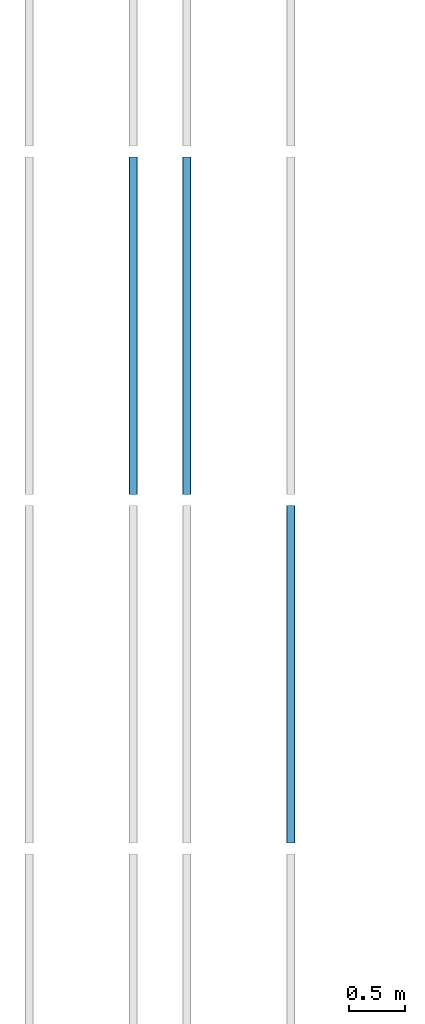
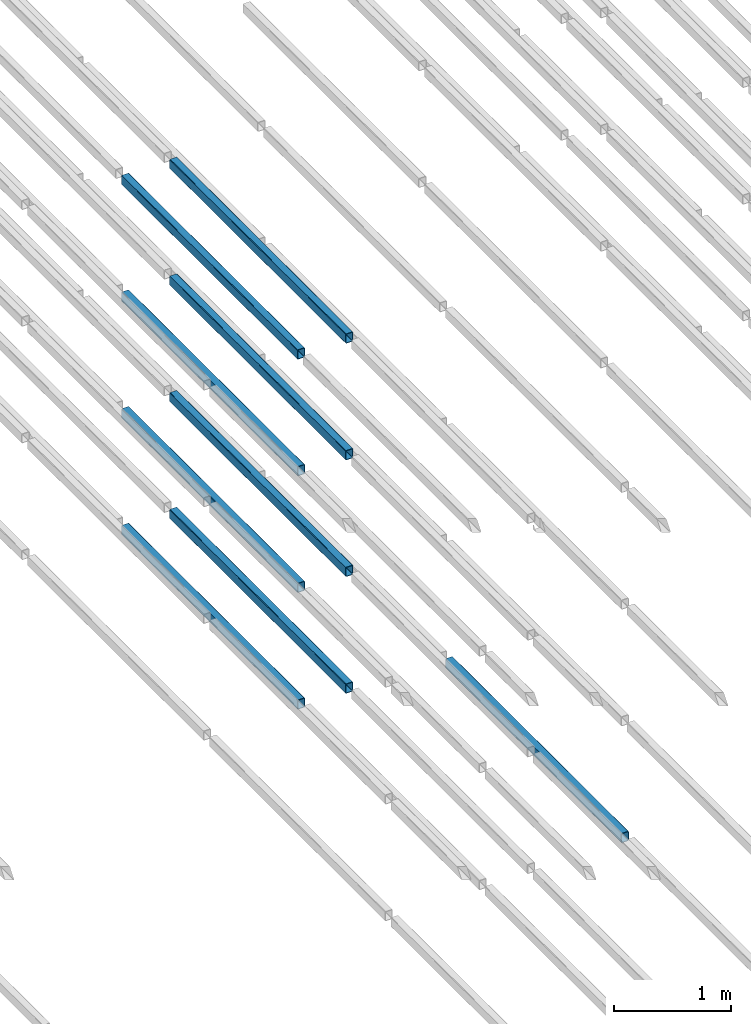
# One storey, part 63 of 290: 9 beams.
"""IFC2X3 building model written with IfcOpenShell, lengths in metres."""

from ifc_helpers import new_model, entity, si_unit, converted_unit, derived_unit, direction, frame, frame_2d, origin, place, context, subcontext, project, spatial, polyline, circle_curve, parameter, trimmed, segment, composite_curve, outline, extrude, material, type_object, element, save


model = new_model("IFC2X3")

# Units and contexts
model_context = context("Model", 3, precision=1e-05, world=origin(), true_north=direction((6.12303176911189e-17, 1.0)))
body_context = subcontext(model_context, "Body", "Model", "MODEL_VIEW")
ifc_project = project(units=[si_unit("LENGTHUNIT", "METRE"), si_unit("AREAUNIT", "SQUARE_METRE"), si_unit("VOLUMEUNIT", "CUBIC_METRE"), converted_unit("PLANEANGLEUNIT", "DEGREE", entity("IfcRatioMeasure", 0.0174532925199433), si_unit("PLANEANGLEUNIT", "RADIAN"), dimensions=[0, 0, 0, 0, 0, 0, 0]), si_unit("MASSUNIT", "GRAM", prefix="KILO"), derived_unit("MASSDENSITYUNIT", [(si_unit("MASSUNIT", "GRAM", prefix="KILO"), 1), (si_unit("LENGTHUNIT", "METRE"), -3)]), derived_unit("MOMENTOFINERTIAUNIT", [(si_unit("LENGTHUNIT", "METRE"), 4)]), si_unit("TIMEUNIT", "SECOND"), si_unit("FREQUENCYUNIT", "HERTZ"), si_unit("THERMODYNAMICTEMPERATUREUNIT", "DEGREE_CELSIUS"), derived_unit("THERMALTRANSMITTANCEUNIT", [(si_unit("MASSUNIT", "GRAM", prefix="KILO"), 1), (si_unit("THERMODYNAMICTEMPERATUREUNIT", "KELVIN"), -1), (si_unit("TIMEUNIT", "SECOND"), -3)]), derived_unit("VOLUMETRICFLOWRATEUNIT", [(si_unit("LENGTHUNIT", "METRE"), 3), (si_unit("TIMEUNIT", "SECOND"), -1)]), si_unit("ELECTRICCURRENTUNIT", "AMPERE"), si_unit("ELECTRICVOLTAGEUNIT", "VOLT"), si_unit("POWERUNIT", "WATT"), si_unit("FORCEUNIT", "NEWTON", prefix="KILO"), si_unit("ILLUMINANCEUNIT", "LUX"), si_unit("LUMINOUSFLUXUNIT", "LUMEN"), si_unit("LUMINOUSINTENSITYUNIT", "CANDELA"), derived_unit("USERDEFINED", [(si_unit("MASSUNIT", "GRAM", prefix="KILO"), -1), (si_unit("LENGTHUNIT", "METRE"), -2), (si_unit("TIMEUNIT", "SECOND"), 3), (si_unit("LUMINOUSFLUXUNIT", "LUMEN"), 1)]), derived_unit("LINEARVELOCITYUNIT", [(si_unit("LENGTHUNIT", "METRE"), 1), (si_unit("TIMEUNIT", "SECOND"), -1)]), si_unit("PRESSUREUNIT", "PASCAL"), derived_unit("USERDEFINED", [(si_unit("LENGTHUNIT", "METRE"), -2), (si_unit("MASSUNIT", "GRAM", prefix="KILO"), 1), (si_unit("TIMEUNIT", "SECOND"), -2)]), derived_unit("LINEARFORCEUNIT", [(si_unit("MASSUNIT", "GRAM", prefix="KILO"), 1), (si_unit("LENGTHUNIT", "METRE"), 1), (si_unit("TIMEUNIT", "SECOND"), -2), (si_unit("LENGTHUNIT", "METRE"), -1)]), derived_unit("PLANARFORCEUNIT", [(si_unit("MASSUNIT", "GRAM", prefix="KILO"), 1), (si_unit("LENGTHUNIT", "METRE"), 1), (si_unit("TIMEUNIT", "SECOND"), -2), (si_unit("LENGTHUNIT", "METRE"), -2)])], contexts=[model_context])

# Site, building, storey
site_placement = place(None, origin())
site = spatial("IfcSite", under=ifc_project, at=site_placement, Name="Default", CompositionType="ELEMENT")
building_placement = place(site_placement, origin())
building = spatial("IfcBuilding", under=site, at=building_placement, CompositionType="ELEMENT")
storey_placement = place(building_placement, frame((0.0, 0.0, 4.0)))
storey = spatial("IfcBuildingStorey", under=building, at=storey_placement, Name="01_OG", CompositionType="ELEMENT", Elevation=4.0)

# Beams
ifc_material = material(Name="Metall - Baustahl S235 blau")
beam_type = type_object("IfcBeamType", Name="RHS Träger (EN 10219-2):RHS 100 x 75 x 5", PredefinedType="NOTDEFINED")
beam_1_placement = place(storey_placement, frame((-194.165111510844, 39.548088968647, -1.2), z_axis=(0.0, 0.0, 1.0), x_axis=(0.0, 1.0, 0.0)))
element("IfcBeam", 1, at=beam_1_placement, inside=storey, type_object=beam_type, material=ifc_material, Name="RHS Träger (EN 10219-2):RHS 100 x 75 x 5", ObjectType="RHS Träger (EN 10219-2):RHS 100 x 75 x 5", context=body_context, shape_type="SweptSolid", body=[
    extrude(outline(composite_curve([segment(polyline([(-0.0400000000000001, -0.0374999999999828), (0.0400000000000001, -0.0374999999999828)]), True, "CONTINUOUS"), segment(trimmed(circle_curve(frame_2d((0.0400000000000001, -0.0274999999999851), x_axis=(0.0, 1.0)), 0.01), [parameter(180.0)], [parameter(270.0)], True, "PARAMETER"), True, "CONTINUOUS"), segment(polyline([(0.05, -0.0274999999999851), (0.05, 0.0274999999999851)]), True, "CONTINUOUS"), segment(trimmed(circle_curve(frame_2d((0.0400000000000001, 0.0274999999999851), x_axis=(0.0, 1.0)), 0.01), [parameter(270.0)], [parameter(4.07110999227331e-13)], True, "PARAMETER"), True, "CONTINUOUS"), segment(polyline([(0.0400000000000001, 0.0375000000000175), (-0.0400000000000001, 0.0375000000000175)]), True, "CONTINUOUS"), segment(trimmed(circle_curve(frame_2d((-0.0400000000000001, 0.0274999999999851), x_axis=(0.0, 1.0)), 0.01), [parameter(360.0)], [parameter(90.0000000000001)], True, "PARAMETER"), True, "CONTINUOUS"), segment(polyline([(-0.05, 0.0274999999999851), (-0.05, -0.0274999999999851)]), True, "CONTINUOUS"), segment(trimmed(circle_curve(frame_2d((-0.0400000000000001, -0.0274999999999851), x_axis=(0.0, 1.0)), 0.01), [parameter(90.0000000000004)], [parameter(180.0)], True, "PARAMETER"), True, "CONTINUOUS")], self_intersect=False), holes=[composite_curve([segment(trimmed(circle_curve(frame_2d((-0.0400000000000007, 0.0274999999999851), x_axis=(0.0, 1.0)), 0.005), [parameter(360.0)], [parameter(89.9999999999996)], True, "PARAMETER"), False, "CONTINUOUS"), segment(polyline([(-0.0400000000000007, 0.0325000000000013), (0.039999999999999, 0.0325000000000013)]), True, "CONTINUOUS"), segment(trimmed(circle_curve(frame_2d((0.039999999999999, 0.0274999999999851), x_axis=(0.0, 1.0)), 0.005), [parameter(270.0)], [parameter(0.0)], True, "PARAMETER"), False, "CONTINUOUS"), segment(polyline([(0.044999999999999, 0.0274999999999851), (0.044999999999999, -0.0274999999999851)]), True, "CONTINUOUS"), segment(trimmed(circle_curve(frame_2d((0.039999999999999, -0.0274999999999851), x_axis=(0.0, 1.0)), 0.005), [parameter(180.0)], [parameter(269.999999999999)], True, "PARAMETER"), False, "CONTINUOUS"), segment(polyline([(0.039999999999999, -0.0325000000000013), (-0.0400000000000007, -0.0325000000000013)]), True, "CONTINUOUS"), segment(trimmed(circle_curve(frame_2d((-0.0400000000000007, -0.0274999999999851), x_axis=(0.0, 1.0)), 0.005), [parameter(90.0000000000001)], [parameter(180.0)], True, "PARAMETER"), False, "CONTINUOUS"), segment(polyline([(-0.0450000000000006, -0.0274999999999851), (-0.0450000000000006, 0.0274999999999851)]), True, "CONTINUOUS")], self_intersect=False)]), frame((0.000100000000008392, -0.0375000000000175, -0.0500000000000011), z_axis=(1.0, 0.0, 0.0), x_axis=(0.0, 0.0, -1.0)), (0.0, 0.0, 1.0), 2.99979999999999),
])
beam_2_placement = place(storey_placement, frame((-195.565111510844, 42.648088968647, -1.2), z_axis=(0.0, 0.0, 1.0), x_axis=(0.0, 1.0, 0.0)))
element("IfcBeam", 2, at=beam_2_placement, inside=storey, type_object=beam_type, material=ifc_material, Name="RHS Träger (EN 10219-2):RHS 100 x 75 x 5", ObjectType="RHS Träger (EN 10219-2):RHS 100 x 75 x 5", context=body_context, shape_type="SweptSolid", body=[
    extrude(outline(composite_curve([segment(polyline([(-0.0400000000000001, -0.0374999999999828), (0.0400000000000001, -0.0374999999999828)]), True, "CONTINUOUS"), segment(trimmed(circle_curve(frame_2d((0.0400000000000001, -0.0274999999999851), x_axis=(0.0, 1.0)), 0.01), [parameter(180.0)], [parameter(270.0)], True, "PARAMETER"), True, "CONTINUOUS"), segment(polyline([(0.05, -0.0274999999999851), (0.05, 0.0274999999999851)]), True, "CONTINUOUS"), segment(trimmed(circle_curve(frame_2d((0.0400000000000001, 0.0274999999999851), x_axis=(0.0, 1.0)), 0.01), [parameter(270.0)], [parameter(4.07110999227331e-13)], True, "PARAMETER"), True, "CONTINUOUS"), segment(polyline([(0.0400000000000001, 0.0375000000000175), (-0.0400000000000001, 0.0375000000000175)]), True, "CONTINUOUS"), segment(trimmed(circle_curve(frame_2d((-0.0400000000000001, 0.0274999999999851), x_axis=(0.0, 1.0)), 0.01), [parameter(360.0)], [parameter(90.0000000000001)], True, "PARAMETER"), True, "CONTINUOUS"), segment(polyline([(-0.05, 0.0274999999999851), (-0.05, -0.0274999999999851)]), True, "CONTINUOUS"), segment(trimmed(circle_curve(frame_2d((-0.0400000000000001, -0.0274999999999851), x_axis=(0.0, 1.0)), 0.01), [parameter(90.0000000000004)], [parameter(180.0)], True, "PARAMETER"), True, "CONTINUOUS")], self_intersect=False), holes=[composite_curve([segment(trimmed(circle_curve(frame_2d((-0.0400000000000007, 0.0274999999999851), x_axis=(0.0, 1.0)), 0.005), [parameter(360.0)], [parameter(89.9999999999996)], True, "PARAMETER"), False, "CONTINUOUS"), segment(polyline([(-0.0400000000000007, 0.0325000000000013), (0.039999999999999, 0.0325000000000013)]), True, "CONTINUOUS"), segment(trimmed(circle_curve(frame_2d((0.039999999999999, 0.0274999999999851), x_axis=(0.0, 1.0)), 0.005), [parameter(270.0)], [parameter(0.0)], True, "PARAMETER"), False, "CONTINUOUS"), segment(polyline([(0.044999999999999, 0.0274999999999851), (0.044999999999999, -0.0274999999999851)]), True, "CONTINUOUS"), segment(trimmed(circle_curve(frame_2d((0.039999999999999, -0.0274999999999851), x_axis=(0.0, 1.0)), 0.005), [parameter(180.0)], [parameter(269.999999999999)], True, "PARAMETER"), False, "CONTINUOUS"), segment(polyline([(0.039999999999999, -0.0325000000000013), (-0.0400000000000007, -0.0325000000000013)]), True, "CONTINUOUS"), segment(trimmed(circle_curve(frame_2d((-0.0400000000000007, -0.0274999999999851), x_axis=(0.0, 1.0)), 0.005), [parameter(90.0000000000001)], [parameter(180.0)], True, "PARAMETER"), False, "CONTINUOUS"), segment(polyline([(-0.0450000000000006, -0.0274999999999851), (-0.0450000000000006, 0.0274999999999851)]), True, "CONTINUOUS")], self_intersect=False)]), frame((9.99999999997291e-05, -0.0375000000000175, -0.0500000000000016), z_axis=(1.0, 0.0, 0.0), x_axis=(0.0, 0.0, -1.0)), (0.0, 0.0, 1.0), 2.99979999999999),
])
beam_3_placement = place(storey_placement, frame((-195.565111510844, 42.648088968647, 0.0150000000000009), z_axis=(0.0, 0.0, 1.0), x_axis=(0.0, 1.0, 0.0)))
element("IfcBeam", 3, at=beam_3_placement, inside=storey, type_object=beam_type, material=ifc_material, Name="RHS Träger (EN 10219-2):RHS 100 x 75 x 5", ObjectType="RHS Träger (EN 10219-2):RHS 100 x 75 x 5", context=body_context, shape_type="SweptSolid", body=[
    extrude(outline(composite_curve([segment(polyline([(-0.0400000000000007, -0.0374999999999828), (0.0399999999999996, -0.0374999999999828)]), True, "CONTINUOUS"), segment(trimmed(circle_curve(frame_2d((0.0399999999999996, -0.0274999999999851), x_axis=(0.0, 1.0)), 0.01), [parameter(180.0)], [parameter(270.0)], True, "PARAMETER"), True, "CONTINUOUS"), segment(polyline([(0.0499999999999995, -0.0274999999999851), (0.0499999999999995, 0.0274999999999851)]), True, "CONTINUOUS"), segment(trimmed(circle_curve(frame_2d((0.0399999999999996, 0.0274999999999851), x_axis=(0.0, 1.0)), 0.01), [parameter(270.0)], [parameter(4.07110999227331e-13)], True, "PARAMETER"), True, "CONTINUOUS"), segment(polyline([(0.0399999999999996, 0.0375000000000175), (-0.0400000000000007, 0.0375000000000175)]), True, "CONTINUOUS"), segment(trimmed(circle_curve(frame_2d((-0.0400000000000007, 0.0274999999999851), x_axis=(0.0, 1.0)), 0.01), [parameter(360.0)], [parameter(90.0000000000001)], True, "PARAMETER"), True, "CONTINUOUS"), segment(polyline([(-0.0500000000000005, 0.0274999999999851), (-0.0500000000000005, -0.0274999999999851)]), True, "CONTINUOUS"), segment(trimmed(circle_curve(frame_2d((-0.0400000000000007, -0.0274999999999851), x_axis=(0.0, 1.0)), 0.01), [parameter(90.0000000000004)], [parameter(180.0)], True, "PARAMETER"), True, "CONTINUOUS")], self_intersect=False), holes=[composite_curve([segment(trimmed(circle_curve(frame_2d((-0.0400000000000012, 0.0274999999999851), x_axis=(0.0, 1.0)), 0.005), [parameter(360.0)], [parameter(89.9999999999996)], True, "PARAMETER"), False, "CONTINUOUS"), segment(polyline([(-0.0400000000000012, 0.0325000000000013), (0.0399999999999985, 0.0325000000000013)]), True, "CONTINUOUS"), segment(trimmed(circle_curve(frame_2d((0.0399999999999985, 0.0274999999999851), x_axis=(0.0, 1.0)), 0.005), [parameter(270.0)], [parameter(0.0)], True, "PARAMETER"), False, "CONTINUOUS"), segment(polyline([(0.0449999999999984, 0.0274999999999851), (0.0449999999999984, -0.0274999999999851)]), True, "CONTINUOUS"), segment(trimmed(circle_curve(frame_2d((0.0399999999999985, -0.0274999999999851), x_axis=(0.0, 1.0)), 0.005), [parameter(180.0)], [parameter(269.999999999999)], True, "PARAMETER"), False, "CONTINUOUS"), segment(polyline([(0.0399999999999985, -0.0325000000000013), (-0.0400000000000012, -0.0325000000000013)]), True, "CONTINUOUS"), segment(trimmed(circle_curve(frame_2d((-0.0400000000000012, -0.0274999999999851), x_axis=(0.0, 1.0)), 0.005), [parameter(90.0000000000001)], [parameter(180.0)], True, "PARAMETER"), False, "CONTINUOUS"), segment(polyline([(-0.0450000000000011, -0.0274999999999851), (-0.0450000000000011, 0.0274999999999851)]), True, "CONTINUOUS")], self_intersect=False)]), frame((9.99999999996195e-05, -0.0375000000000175, -0.0500000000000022), z_axis=(1.0, 0.0, 0.0), x_axis=(0.0, 0.0, -1.0)), (0.0, 0.0, 1.0), 2.99979999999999),
])
beam_4_placement = place(storey_placement, frame((-195.565111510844, 42.648088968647, 1.23), z_axis=(0.0, 0.0, 1.0), x_axis=(0.0, 1.0, 0.0)))
element("IfcBeam", 4, at=beam_4_placement, inside=storey, type_object=beam_type, material=ifc_material, Name="RHS Träger (EN 10219-2):RHS 100 x 75 x 5", ObjectType="RHS Träger (EN 10219-2):RHS 100 x 75 x 5", context=body_context, shape_type="SweptSolid", body=[
    extrude(outline(composite_curve([segment(polyline([(-0.0399999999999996, -0.0374999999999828), (0.0399999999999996, -0.0374999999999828)]), True, "CONTINUOUS"), segment(trimmed(circle_curve(frame_2d((0.0399999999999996, -0.0274999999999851), x_axis=(0.0, 1.0)), 0.01), [parameter(180.0)], [parameter(270.0)], True, "PARAMETER"), True, "CONTINUOUS"), segment(polyline([(0.0500000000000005, -0.0274999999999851), (0.0500000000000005, 0.0274999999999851)]), True, "CONTINUOUS"), segment(trimmed(circle_curve(frame_2d((0.0399999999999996, 0.0274999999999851), x_axis=(0.0, 1.0)), 0.01), [parameter(270.0)], [parameter(4.07110999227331e-13)], True, "PARAMETER"), True, "CONTINUOUS"), segment(polyline([(0.0399999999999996, 0.0375000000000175), (-0.0399999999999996, 0.0375000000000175)]), True, "CONTINUOUS"), segment(trimmed(circle_curve(frame_2d((-0.0399999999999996, 0.0274999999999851), x_axis=(0.0, 1.0)), 0.01), [parameter(360.0)], [parameter(90.0000000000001)], True, "PARAMETER"), True, "CONTINUOUS"), segment(polyline([(-0.0499999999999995, 0.0274999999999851), (-0.0499999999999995, -0.0274999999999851)]), True, "CONTINUOUS"), segment(trimmed(circle_curve(frame_2d((-0.0399999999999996, -0.0274999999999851), x_axis=(0.0, 1.0)), 0.01), [parameter(90.0000000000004)], [parameter(180.0)], True, "PARAMETER"), True, "CONTINUOUS")], self_intersect=False), holes=[composite_curve([segment(trimmed(circle_curve(frame_2d((-0.0400000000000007, 0.0274999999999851), x_axis=(0.0, 1.0)), 0.005), [parameter(360.0)], [parameter(89.9999999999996)], True, "PARAMETER"), False, "CONTINUOUS"), segment(polyline([(-0.0400000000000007, 0.0325000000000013), (0.0399999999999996, 0.0325000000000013)]), True, "CONTINUOUS"), segment(trimmed(circle_curve(frame_2d((0.0399999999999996, 0.0274999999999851), x_axis=(0.0, 1.0)), 0.005), [parameter(270.0)], [parameter(0.0)], True, "PARAMETER"), False, "CONTINUOUS"), segment(polyline([(0.0449999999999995, 0.0274999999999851), (0.0449999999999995, -0.0274999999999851)]), True, "CONTINUOUS"), segment(trimmed(circle_curve(frame_2d((0.0399999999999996, -0.0274999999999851), x_axis=(0.0, 1.0)), 0.005), [parameter(180.0)], [parameter(269.999999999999)], True, "PARAMETER"), False, "CONTINUOUS"), segment(polyline([(0.0399999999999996, -0.0325000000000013), (-0.0400000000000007, -0.0325000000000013)]), True, "CONTINUOUS"), segment(trimmed(circle_curve(frame_2d((-0.0400000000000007, -0.0274999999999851), x_axis=(0.0, 1.0)), 0.005), [parameter(90.0000000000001)], [parameter(180.0)], True, "PARAMETER"), False, "CONTINUOUS"), segment(polyline([(-0.0450000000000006, -0.0274999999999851), (-0.0450000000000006, 0.0274999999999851)]), True, "CONTINUOUS")], self_intersect=False)]), frame((9.99999999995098e-05, -0.0375000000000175, -0.0500000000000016), z_axis=(1.0, 0.0, 0.0), x_axis=(0.0, 0.0, -1.0)), (0.0, 0.0, 1.0), 2.99979999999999),
])
beam_5_placement = place(storey_placement, frame((-195.565111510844, 42.648088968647, 2.445), z_axis=(0.0, 0.0, 1.0), x_axis=(0.0, 1.0, 0.0)))
element("IfcBeam", 5, at=beam_5_placement, inside=storey, type_object=beam_type, material=ifc_material, Name="RHS Träger (EN 10219-2):RHS 100 x 75 x 5", ObjectType="RHS Träger (EN 10219-2):RHS 100 x 75 x 5", context=body_context, shape_type="SweptSolid", body=[
    extrude(outline(composite_curve([segment(polyline([(-0.0399999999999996, -0.0374999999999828), (0.0399999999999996, -0.0374999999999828)]), True, "CONTINUOUS"), segment(trimmed(circle_curve(frame_2d((0.0399999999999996, -0.0274999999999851), x_axis=(0.0, 1.0)), 0.01), [parameter(180.0)], [parameter(270.0)], True, "PARAMETER"), True, "CONTINUOUS"), segment(polyline([(0.0500000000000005, -0.0274999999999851), (0.0500000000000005, 0.0274999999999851)]), True, "CONTINUOUS"), segment(trimmed(circle_curve(frame_2d((0.0399999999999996, 0.0274999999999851), x_axis=(0.0, 1.0)), 0.01), [parameter(270.0)], [parameter(4.07110999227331e-13)], True, "PARAMETER"), True, "CONTINUOUS"), segment(polyline([(0.0399999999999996, 0.0375000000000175), (-0.0399999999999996, 0.0375000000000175)]), True, "CONTINUOUS"), segment(trimmed(circle_curve(frame_2d((-0.0399999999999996, 0.0274999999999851), x_axis=(0.0, 1.0)), 0.01), [parameter(360.0)], [parameter(90.0000000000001)], True, "PARAMETER"), True, "CONTINUOUS"), segment(polyline([(-0.0499999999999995, 0.0274999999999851), (-0.0499999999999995, -0.0274999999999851)]), True, "CONTINUOUS"), segment(trimmed(circle_curve(frame_2d((-0.0399999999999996, -0.0274999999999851), x_axis=(0.0, 1.0)), 0.01), [parameter(90.0000000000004)], [parameter(180.0)], True, "PARAMETER"), True, "CONTINUOUS")], self_intersect=False), holes=[composite_curve([segment(trimmed(circle_curve(frame_2d((-0.0400000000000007, 0.0274999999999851), x_axis=(0.0, 1.0)), 0.005), [parameter(360.0)], [parameter(89.9999999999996)], True, "PARAMETER"), False, "CONTINUOUS"), segment(polyline([(-0.0400000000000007, 0.0325000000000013), (0.0399999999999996, 0.0325000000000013)]), True, "CONTINUOUS"), segment(trimmed(circle_curve(frame_2d((0.0399999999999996, 0.0274999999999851), x_axis=(0.0, 1.0)), 0.005), [parameter(270.0)], [parameter(0.0)], True, "PARAMETER"), False, "CONTINUOUS"), segment(polyline([(0.0449999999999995, 0.0274999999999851), (0.0449999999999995, -0.0274999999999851)]), True, "CONTINUOUS"), segment(trimmed(circle_curve(frame_2d((0.0399999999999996, -0.0274999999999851), x_axis=(0.0, 1.0)), 0.005), [parameter(180.0)], [parameter(269.999999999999)], True, "PARAMETER"), False, "CONTINUOUS"), segment(polyline([(0.0399999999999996, -0.0325000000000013), (-0.0400000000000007, -0.0325000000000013)]), True, "CONTINUOUS"), segment(trimmed(circle_curve(frame_2d((-0.0400000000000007, -0.0274999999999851), x_axis=(0.0, 1.0)), 0.005), [parameter(90.0000000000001)], [parameter(180.0)], True, "PARAMETER"), False, "CONTINUOUS"), segment(polyline([(-0.0450000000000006, -0.0274999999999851), (-0.0450000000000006, 0.0274999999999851)]), True, "CONTINUOUS")], self_intersect=False)]), frame((9.99999999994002e-05, -0.0375000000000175, -0.0500000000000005), z_axis=(1.0, 0.0, 0.0), x_axis=(0.0, 0.0, -1.0)), (0.0, 0.0, 1.0), 2.99979999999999),
])
beam_6_placement = place(storey_placement, frame((-195.015111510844, 42.648088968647, -1.2), z_axis=(0.0, 0.0, 1.0), x_axis=(0.0, 1.0, 0.0)))
element("IfcBeam", 6, at=beam_6_placement, inside=storey, type_object=beam_type, material=ifc_material, Name="RHS Träger (EN 10219-2):RHS 100 x 75 x 5", ObjectType="RHS Träger (EN 10219-2):RHS 100 x 75 x 5", context=body_context, shape_type="SweptSolid", body=[
    extrude(outline(composite_curve([segment(trimmed(circle_curve(frame_2d((-0.0275000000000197, -0.0400000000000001), x_axis=(1.0, 0.0)), 0.01), [parameter(180.0)], [parameter(270.0)], True, "PARAMETER"), True, "CONTINUOUS"), segment(polyline([(-0.0275000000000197, -0.05), (0.0274999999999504, -0.05)]), True, "CONTINUOUS"), segment(trimmed(circle_curve(frame_2d((0.0274999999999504, -0.0400000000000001), x_axis=(1.0, 0.0)), 0.01), [parameter(270.0)], [parameter(5.08888749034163e-14)], True, "PARAMETER"), True, "CONTINUOUS"), segment(polyline([(0.0374999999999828, -0.0400000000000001), (0.0374999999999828, 0.0400000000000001)]), True, "CONTINUOUS"), segment(trimmed(circle_curve(frame_2d((0.0274999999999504, 0.0400000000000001), x_axis=(1.0, 0.0)), 0.01), [parameter(360.0)], [parameter(89.9999999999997)], True, "PARAMETER"), True, "CONTINUOUS"), segment(polyline([(0.0274999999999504, 0.05), (-0.0275000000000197, 0.05)]), True, "CONTINUOUS"), segment(trimmed(circle_curve(frame_2d((-0.0275000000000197, 0.0400000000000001), x_axis=(1.0, 0.0)), 0.01), [parameter(90.0000000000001)], [parameter(180.0)], True, "PARAMETER"), True, "CONTINUOUS"), segment(polyline([(-0.0375000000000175, 0.0400000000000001), (-0.0375000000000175, -0.0400000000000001)]), True, "CONTINUOUS")], self_intersect=False), holes=[composite_curve([segment(polyline([(0.0274999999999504, -0.0450000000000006), (-0.0275000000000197, -0.0450000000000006)]), True, "CONTINUOUS"), segment(trimmed(circle_curve(frame_2d((-0.0275000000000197, -0.0400000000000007), x_axis=(1.0, 0.0)), 0.005), [parameter(180.0)], [parameter(270.0)], True, "PARAMETER"), False, "CONTINUOUS"), segment(polyline([(-0.0325000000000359, -0.0400000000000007), (-0.0325000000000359, 0.039999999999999)]), True, "CONTINUOUS"), segment(trimmed(circle_curve(frame_2d((-0.0275000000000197, 0.039999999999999), x_axis=(1.0, 0.0)), 0.005), [parameter(90.0000000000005)], [parameter(180.0)], True, "PARAMETER"), False, "CONTINUOUS"), segment(polyline([(-0.0275000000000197, 0.044999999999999), (0.0274999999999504, 0.044999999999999)]), True, "CONTINUOUS"), segment(trimmed(circle_curve(frame_2d((0.0274999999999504, 0.039999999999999), x_axis=(1.0, 0.0)), 0.005), [parameter(0.0)], [parameter(90.0000000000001)], True, "PARAMETER"), False, "CONTINUOUS"), segment(polyline([(0.0324999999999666, 0.039999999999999), (0.0324999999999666, -0.0400000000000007)]), True, "CONTINUOUS"), segment(trimmed(circle_curve(frame_2d((0.0274999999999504, -0.0400000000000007), x_axis=(1.0, 0.0)), 0.005), [parameter(270.0)], [parameter(4.07110999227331e-13)], True, "PARAMETER"), False, "CONTINUOUS")], self_intersect=False)]), frame((9.99999999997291e-05, 0.0374999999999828, -0.0500000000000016), z_axis=(1.0, 0.0, 0.0), x_axis=(0.0, -1.0, 0.0)), (0.0, 0.0, 1.0), 2.99979999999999),
])
beam_7_placement = place(storey_placement, frame((-195.015111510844, 42.648088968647, 0.0150000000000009), z_axis=(0.0, 0.0, 1.0), x_axis=(0.0, 1.0, 0.0)))
element("IfcBeam", 7, at=beam_7_placement, inside=storey, type_object=beam_type, material=ifc_material, Name="RHS Träger (EN 10219-2):RHS 100 x 75 x 5", ObjectType="RHS Träger (EN 10219-2):RHS 100 x 75 x 5", context=body_context, shape_type="SweptSolid", body=[
    extrude(outline(composite_curve([segment(trimmed(circle_curve(frame_2d((-0.0275000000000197, -0.0400000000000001), x_axis=(1.0, 0.0)), 0.01), [parameter(180.0)], [parameter(270.0)], True, "PARAMETER"), True, "CONTINUOUS"), segment(polyline([(-0.0275000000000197, -0.05), (0.0274999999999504, -0.05)]), True, "CONTINUOUS"), segment(trimmed(circle_curve(frame_2d((0.0274999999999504, -0.0400000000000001), x_axis=(1.0, 0.0)), 0.01), [parameter(270.0)], [parameter(5.08888749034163e-14)], True, "PARAMETER"), True, "CONTINUOUS"), segment(polyline([(0.0374999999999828, -0.0400000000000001), (0.0374999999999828, 0.0400000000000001)]), True, "CONTINUOUS"), segment(trimmed(circle_curve(frame_2d((0.0274999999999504, 0.0400000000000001), x_axis=(1.0, 0.0)), 0.01), [parameter(360.0)], [parameter(89.9999999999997)], True, "PARAMETER"), True, "CONTINUOUS"), segment(polyline([(0.0274999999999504, 0.05), (-0.0275000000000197, 0.05)]), True, "CONTINUOUS"), segment(trimmed(circle_curve(frame_2d((-0.0275000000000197, 0.0400000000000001), x_axis=(1.0, 0.0)), 0.01), [parameter(90.0000000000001)], [parameter(180.0)], True, "PARAMETER"), True, "CONTINUOUS"), segment(polyline([(-0.0375000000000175, 0.0400000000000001), (-0.0375000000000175, -0.0400000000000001)]), True, "CONTINUOUS")], self_intersect=False), holes=[composite_curve([segment(polyline([(0.0274999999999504, -0.0450000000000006), (-0.0275000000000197, -0.0450000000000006)]), True, "CONTINUOUS"), segment(trimmed(circle_curve(frame_2d((-0.0275000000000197, -0.0400000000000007), x_axis=(1.0, 0.0)), 0.005), [parameter(180.0)], [parameter(270.0)], True, "PARAMETER"), False, "CONTINUOUS"), segment(polyline([(-0.0325000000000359, -0.0400000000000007), (-0.0325000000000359, 0.039999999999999)]), True, "CONTINUOUS"), segment(trimmed(circle_curve(frame_2d((-0.0275000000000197, 0.039999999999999), x_axis=(1.0, 0.0)), 0.005), [parameter(90.0000000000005)], [parameter(180.0)], True, "PARAMETER"), False, "CONTINUOUS"), segment(polyline([(-0.0275000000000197, 0.044999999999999), (0.0274999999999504, 0.044999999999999)]), True, "CONTINUOUS"), segment(trimmed(circle_curve(frame_2d((0.0274999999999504, 0.039999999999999), x_axis=(1.0, 0.0)), 0.005), [parameter(0.0)], [parameter(90.0000000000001)], True, "PARAMETER"), False, "CONTINUOUS"), segment(polyline([(0.0324999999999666, 0.039999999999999), (0.0324999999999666, -0.0400000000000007)]), True, "CONTINUOUS"), segment(trimmed(circle_curve(frame_2d((0.0274999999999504, -0.0400000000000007), x_axis=(1.0, 0.0)), 0.005), [parameter(270.0)], [parameter(4.07110999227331e-13)], True, "PARAMETER"), False, "CONTINUOUS")], self_intersect=False)]), frame((9.99999999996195e-05, 0.0374999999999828, -0.0500000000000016), z_axis=(1.0, 0.0, 0.0), x_axis=(0.0, -1.0, 0.0)), (0.0, 0.0, 1.0), 2.99979999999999),
])
beam_8_placement = place(storey_placement, frame((-195.015111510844, 42.648088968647, 1.23), z_axis=(0.0, 0.0, 1.0), x_axis=(0.0, 1.0, 0.0)))
element("IfcBeam", 8, at=beam_8_placement, inside=storey, type_object=beam_type, material=ifc_material, Name="RHS Träger (EN 10219-2):RHS 100 x 75 x 5", ObjectType="RHS Träger (EN 10219-2):RHS 100 x 75 x 5", context=body_context, shape_type="SweptSolid", body=[
    extrude(outline(composite_curve([segment(trimmed(circle_curve(frame_2d((-0.0275000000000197, -0.0399999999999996), x_axis=(1.0, 0.0)), 0.01), [parameter(180.0)], [parameter(270.0)], True, "PARAMETER"), True, "CONTINUOUS"), segment(polyline([(-0.0275000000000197, -0.0499999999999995), (0.0274999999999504, -0.0499999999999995)]), True, "CONTINUOUS"), segment(trimmed(circle_curve(frame_2d((0.0274999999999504, -0.0399999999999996), x_axis=(1.0, 0.0)), 0.01), [parameter(270.0)], [parameter(5.08888749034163e-14)], True, "PARAMETER"), True, "CONTINUOUS"), segment(polyline([(0.0374999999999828, -0.0399999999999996), (0.0374999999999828, 0.0399999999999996)]), True, "CONTINUOUS"), segment(trimmed(circle_curve(frame_2d((0.0274999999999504, 0.0399999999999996), x_axis=(1.0, 0.0)), 0.01), [parameter(360.0)], [parameter(89.9999999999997)], True, "PARAMETER"), True, "CONTINUOUS"), segment(polyline([(0.0274999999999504, 0.0500000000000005), (-0.0275000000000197, 0.0500000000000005)]), True, "CONTINUOUS"), segment(trimmed(circle_curve(frame_2d((-0.0275000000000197, 0.0399999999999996), x_axis=(1.0, 0.0)), 0.01), [parameter(90.0000000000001)], [parameter(180.0)], True, "PARAMETER"), True, "CONTINUOUS"), segment(polyline([(-0.0375000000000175, 0.0399999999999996), (-0.0375000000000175, -0.0399999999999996)]), True, "CONTINUOUS")], self_intersect=False), holes=[composite_curve([segment(polyline([(0.0274999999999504, -0.0450000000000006), (-0.0275000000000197, -0.0450000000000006)]), True, "CONTINUOUS"), segment(trimmed(circle_curve(frame_2d((-0.0275000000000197, -0.0400000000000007), x_axis=(1.0, 0.0)), 0.005), [parameter(180.0)], [parameter(270.0)], True, "PARAMETER"), False, "CONTINUOUS"), segment(polyline([(-0.0325000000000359, -0.0400000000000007), (-0.0325000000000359, 0.0399999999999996)]), True, "CONTINUOUS"), segment(trimmed(circle_curve(frame_2d((-0.0275000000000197, 0.0399999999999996), x_axis=(1.0, 0.0)), 0.005), [parameter(90.0000000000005)], [parameter(180.0)], True, "PARAMETER"), False, "CONTINUOUS"), segment(polyline([(-0.0275000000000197, 0.0449999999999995), (0.0274999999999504, 0.0449999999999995)]), True, "CONTINUOUS"), segment(trimmed(circle_curve(frame_2d((0.0274999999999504, 0.0399999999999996), x_axis=(1.0, 0.0)), 0.005), [parameter(0.0)], [parameter(90.0000000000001)], True, "PARAMETER"), False, "CONTINUOUS"), segment(polyline([(0.0324999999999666, 0.0399999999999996), (0.0324999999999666, -0.0400000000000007)]), True, "CONTINUOUS"), segment(trimmed(circle_curve(frame_2d((0.0274999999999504, -0.0400000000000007), x_axis=(1.0, 0.0)), 0.005), [parameter(270.0)], [parameter(4.07110999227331e-13)], True, "PARAMETER"), False, "CONTINUOUS")], self_intersect=False)]), frame((9.99999999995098e-05, 0.0374999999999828, -0.0500000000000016), z_axis=(1.0, 0.0, 0.0), x_axis=(0.0, -1.0, 0.0)), (0.0, 0.0, 1.0), 2.99979999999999),
])
beam_9_placement = place(storey_placement, frame((-195.015111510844, 42.648088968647, 2.445), z_axis=(0.0, 0.0, 1.0), x_axis=(0.0, 1.0, 0.0)))
element("IfcBeam", 9, at=beam_9_placement, inside=storey, type_object=beam_type, material=ifc_material, Name="RHS Träger (EN 10219-2):RHS 100 x 75 x 5", ObjectType="RHS Träger (EN 10219-2):RHS 100 x 75 x 5", context=body_context, shape_type="SweptSolid", body=[
    extrude(outline(composite_curve([segment(trimmed(circle_curve(frame_2d((-0.0275000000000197, -0.0399999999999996), x_axis=(1.0, 0.0)), 0.01), [parameter(180.0)], [parameter(270.0)], True, "PARAMETER"), True, "CONTINUOUS"), segment(polyline([(-0.0275000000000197, -0.0499999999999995), (0.0274999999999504, -0.0499999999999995)]), True, "CONTINUOUS"), segment(trimmed(circle_curve(frame_2d((0.0274999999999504, -0.0399999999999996), x_axis=(1.0, 0.0)), 0.01), [parameter(270.0)], [parameter(5.08888749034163e-14)], True, "PARAMETER"), True, "CONTINUOUS"), segment(polyline([(0.0374999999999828, -0.0399999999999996), (0.0374999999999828, 0.0399999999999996)]), True, "CONTINUOUS"), segment(trimmed(circle_curve(frame_2d((0.0274999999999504, 0.0399999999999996), x_axis=(1.0, 0.0)), 0.01), [parameter(360.0)], [parameter(89.9999999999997)], True, "PARAMETER"), True, "CONTINUOUS"), segment(polyline([(0.0274999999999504, 0.0500000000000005), (-0.0275000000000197, 0.0500000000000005)]), True, "CONTINUOUS"), segment(trimmed(circle_curve(frame_2d((-0.0275000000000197, 0.0399999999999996), x_axis=(1.0, 0.0)), 0.01), [parameter(90.0000000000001)], [parameter(180.0)], True, "PARAMETER"), True, "CONTINUOUS"), segment(polyline([(-0.0375000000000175, 0.0399999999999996), (-0.0375000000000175, -0.0399999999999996)]), True, "CONTINUOUS")], self_intersect=False), holes=[composite_curve([segment(polyline([(0.0274999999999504, -0.0450000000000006), (-0.0275000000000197, -0.0450000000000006)]), True, "CONTINUOUS"), segment(trimmed(circle_curve(frame_2d((-0.0275000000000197, -0.0400000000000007), x_axis=(1.0, 0.0)), 0.005), [parameter(180.0)], [parameter(270.0)], True, "PARAMETER"), False, "CONTINUOUS"), segment(polyline([(-0.0325000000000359, -0.0400000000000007), (-0.0325000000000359, 0.0399999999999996)]), True, "CONTINUOUS"), segment(trimmed(circle_curve(frame_2d((-0.0275000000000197, 0.0399999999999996), x_axis=(1.0, 0.0)), 0.005), [parameter(90.0000000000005)], [parameter(180.0)], True, "PARAMETER"), False, "CONTINUOUS"), segment(polyline([(-0.0275000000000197, 0.0449999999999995), (0.0274999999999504, 0.0449999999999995)]), True, "CONTINUOUS"), segment(trimmed(circle_curve(frame_2d((0.0274999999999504, 0.0399999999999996), x_axis=(1.0, 0.0)), 0.005), [parameter(0.0)], [parameter(90.0000000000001)], True, "PARAMETER"), False, "CONTINUOUS"), segment(polyline([(0.0324999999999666, 0.0399999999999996), (0.0324999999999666, -0.0400000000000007)]), True, "CONTINUOUS"), segment(trimmed(circle_curve(frame_2d((0.0274999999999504, -0.0400000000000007), x_axis=(1.0, 0.0)), 0.005), [parameter(270.0)], [parameter(4.07110999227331e-13)], True, "PARAMETER"), False, "CONTINUOUS")], self_intersect=False)]), frame((9.99999999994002e-05, 0.0374999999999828, -0.0500000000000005), z_axis=(1.0, 0.0, 0.0), x_axis=(0.0, -1.0, 0.0)), (0.0, 0.0, 1.0), 2.99979999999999),
])

save(model, "model.ifc")
